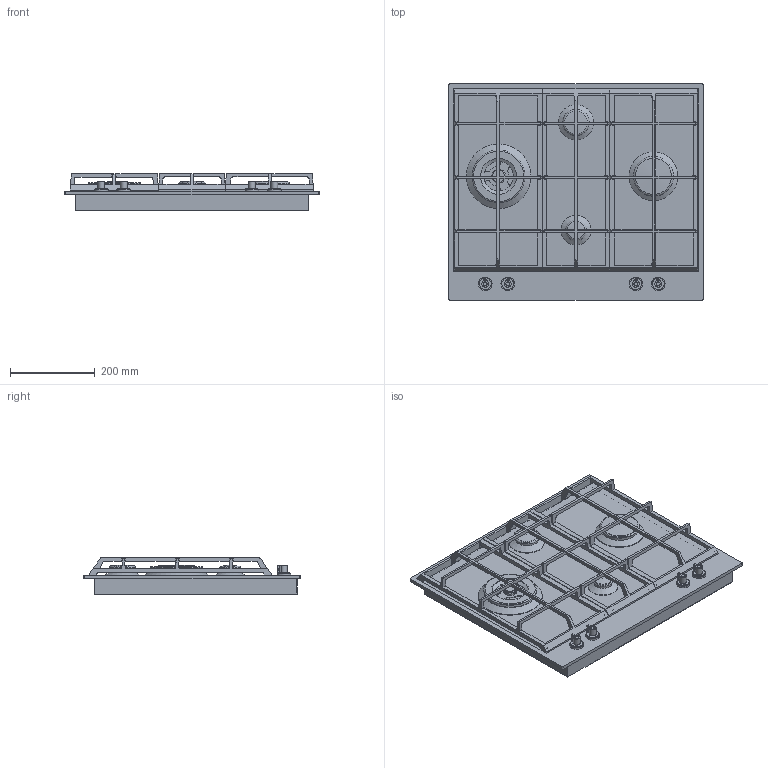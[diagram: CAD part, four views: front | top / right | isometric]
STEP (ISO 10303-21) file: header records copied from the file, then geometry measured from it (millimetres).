
FILE_DESCRIPTION(/* description */ (''),/* implementation_level */ '2;1');
FILE_NAME(/* name */ 'PX164L.stp',/* time_stamp */ '2018-02-23T14:36:22+01:00',/* author */ (''),/* organization */ (''),/* preprocessor_version */ 'ST-DEVELOPER v16',/* originating_system */ 'SIEMENS PLM Software NX 11.0',/* authorisation */ '');
FILE_SCHEMA (('AUTOMOTIVE_DESIGN { 1 0 10303 214 3 1 1 1 }'));
Length unit declared in the file: millimetre
Products named in the file (1): FAVE0470770Fltqd
Bounding box: 600 x 510 x 87 mm (x, y, z)
Volume: 2669158.5 mm3; surface area: 1830902.5 mm2
Topology: 31 solids, 35 shells, 1174 faces, 2949 edges, 1824 vertices
Faces by surface type: plane 385, cylinder 363, bspline 248, torus 160, cone 12, sphere 6
Full cylindrical faces by diameter (mm): 0.8 x8, 4.1 x12, 8.5 x8, 9 x4, 11.1 x4, 18 x4, 23 x5, 23.5 x1, 26 x1, 28 x2, 30 x4, 32 x5, 42 x1, 43 x1, 55 x1, 56 x1, 70.5 x1, 79.5 x1, 83 x1, 85 x1, 87 x1, 88 x1, 89.5 x1, 90 x1, 98.5 x1, 106.5 x1, 111 x1, 113.5 x1, 115 x1, 122 x1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
Entity records: 40336 total; most frequent: CARTESIAN_POINT 13208, DIRECTION 5628, ORIENTED_EDGE 5578, EDGE_CURVE 2789, AXIS2_PLACEMENT_3D 2208, VERTEX_POINT 1780, EDGE_LOOP 1349, LINE 1212
